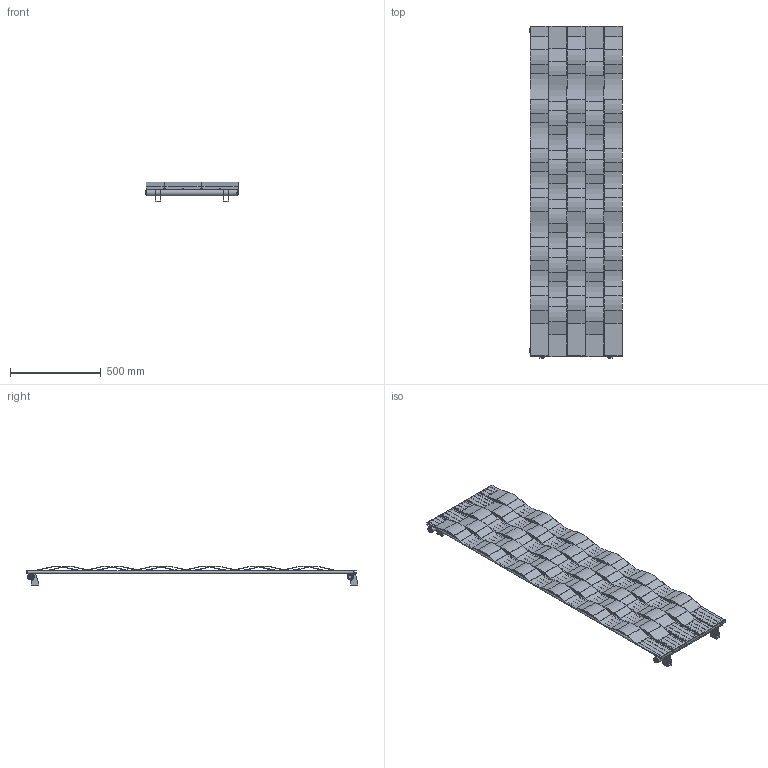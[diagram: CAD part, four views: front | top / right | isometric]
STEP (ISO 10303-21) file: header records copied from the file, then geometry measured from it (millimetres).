
FILE_DESCRIPTION (( 'STEP AP203' ), '1' );
FILE_NAME ('F5RIV1815.STEP', '2026-03-04T14:36:03', ( '' ), ( '' ), 'SwSTEP 2.0', 'SolidWorks 2025', '' );
FILE_SCHEMA (( 'CONFIG_CONTROL_DESIGN' ));
Length unit declared in the file: millimetre
Products named in the file (11): STAFFA 2025 [Con configurazioni]_ZIGOLO - CANARINO S; tappo_sfiato.prt; LAMIERA FRONTALE RIVER 1800_5; tappo_sx.prt; COLLETTORE INT 25 [Con configurazioni]_503; Raccordo1_1_1.STEP; TRAVERSINO TONDO 16 [Con configurazioni]_1810; GRIP18002.STEP; F5RIV1815; GRIP18001.STEP; Raccordo1_1.STEP
Assembly tree (38 placements, depth 4):
  F5RIV1815
    COLLETTORE INT 25 [Con configurazioni]_503  x2
    TRAVERSINO TONDO 16 [Con configurazioni]_1810  x20
    LAMIERA FRONTALE RIVER 1800_5
      GRIP18001.STEP  x3
        Raccordo1_1.STEP
      GRIP18002.STEP  x2
        Raccordo1_1_1.STEP
    tappo_sfiato.prt  x2
    tappo_sx.prt  x2
    STAFFA 2025 [Con configurazioni]_ZIGOLO - CANARINO S  x4
Bounding box: 515 x 1829 x 107.55 mm (x, y, z)
Volume: 4506473.6 mm3; surface area: 5436786.5 mm2
Topology: 31 solids, 39 shells, 1568 faces, 3992 edges, 2226 vertices
Faces by surface type: plane 688, cylinder 570, sphere 160, bspline 98, torus 48, cone 4
Entity records: 27930 total; most frequent: CARTESIAN_POINT 14613, ORIENTED_EDGE 2556, DIRECTION 2066, EDGE_CURVE 1282, AXIS2_PLACEMENT_3D 753, VERTEX_POINT 729, VECTOR 560, LINE 560
